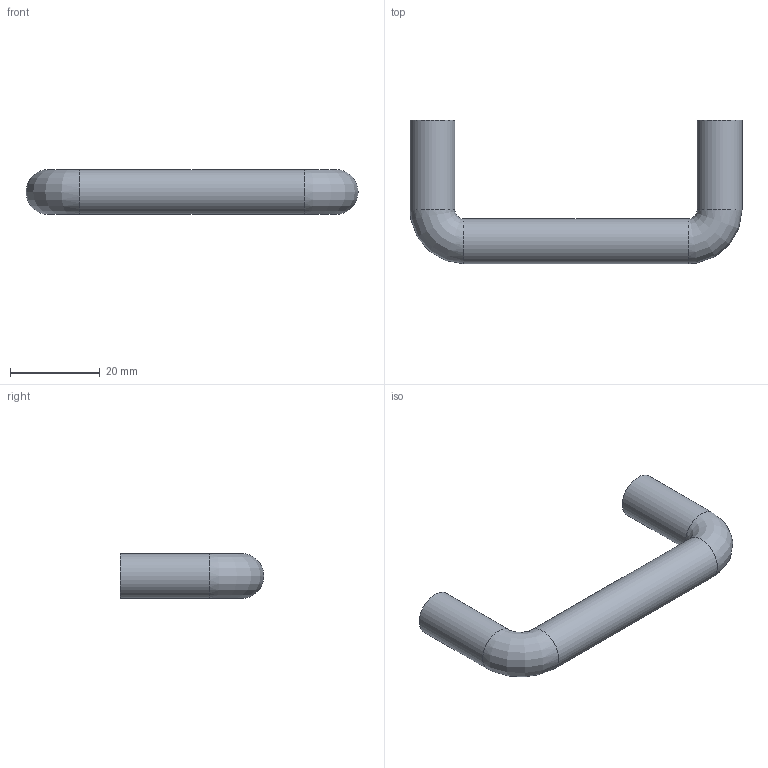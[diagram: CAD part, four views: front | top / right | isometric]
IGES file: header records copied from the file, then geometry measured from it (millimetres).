
Start section: Data from Parasolid IGES Translator 20.0.26, Copyright(c) 2006 Siemens P LM Software. All Rights Reserved.
Global section: file name: 9070443.igs; native system: By Siemens PLM Incorporated; preprocessor: XPlus GENERIC/IGES 20.0.26; author: Noname; organization: Noname; date: 20200529.140840; units: millimetre
Bounding box: 74 x 32 x 10 mm (x, y, z)
Surface area: 3851.3 mm2 (no closed solid volume)
Topology: 0 solids, 0 shells, 11 faces, 42 edges, 38 vertices
Faces by surface type: revolution 7, extrusion 4
